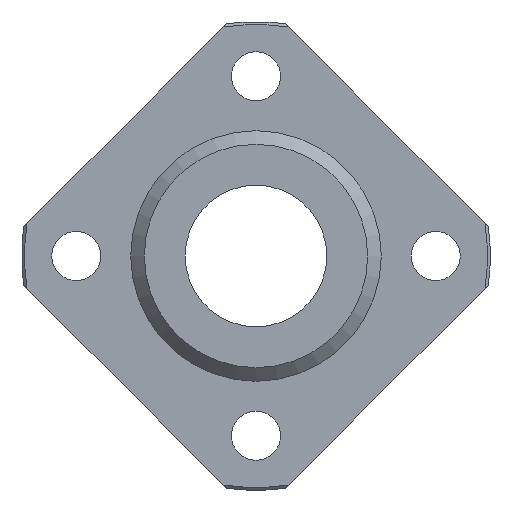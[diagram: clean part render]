
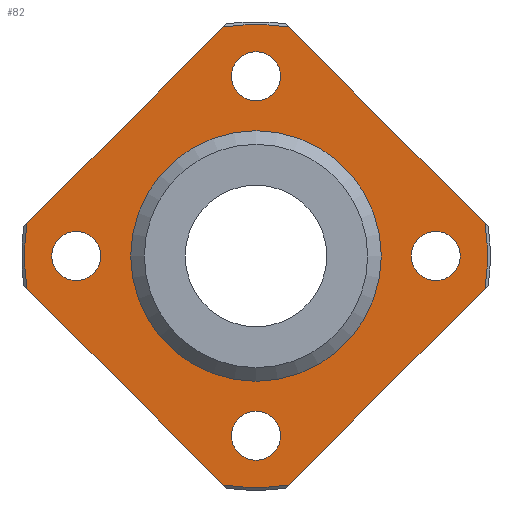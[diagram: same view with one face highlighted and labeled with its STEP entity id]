
A CAD part, left-side view. The second image highlights one B-rep face of the part: STEP entity #82.
In plain terms, the highlighted planar face has unit normal (-1, 0, 0).
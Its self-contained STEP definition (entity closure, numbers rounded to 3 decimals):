
#82=ADVANCED_FACE('',(#132,#133,#134,#135,#136,#137),#138,.F.);
#132=FACE_BOUND('',#226,.T.);
#133=FACE_BOUND('',#227,.T.);
#134=FACE_BOUND('',#228,.T.);
#135=FACE_BOUND('',#229,.T.);
#136=FACE_BOUND('',#230,.T.);
#137=FACE_OUTER_BOUND('',#231,.T.);
#138=PLANE('',#232);
#226=EDGE_LOOP('',(#358));
#227=EDGE_LOOP('',(#359));
#228=EDGE_LOOP('',(#360));
#229=EDGE_LOOP('',(#361));
#230=EDGE_LOOP('',(#362));
#231=EDGE_LOOP('',(#363,#364,#365,#366,#367,#368,#369,#370));
#232=AXIS2_PLACEMENT_3D('',#371,#372,#373);
#358=ORIENTED_EDGE('',*,*,#571,.T.);
#359=ORIENTED_EDGE('',*,*,#572,.T.);
#360=ORIENTED_EDGE('',*,*,#573,.T.);
#361=ORIENTED_EDGE('',*,*,#574,.T.);
#362=ORIENTED_EDGE('',*,*,#575,.T.);
#363=ORIENTED_EDGE('',*,*,#576,.F.);
#364=ORIENTED_EDGE('',*,*,#548,.F.);
#365=ORIENTED_EDGE('',*,*,#538,.F.);
#366=ORIENTED_EDGE('',*,*,#577,.F.);
#367=ORIENTED_EDGE('',*,*,#578,.F.);
#368=ORIENTED_EDGE('',*,*,#579,.F.);
#369=ORIENTED_EDGE('',*,*,#549,.F.);
#370=ORIENTED_EDGE('',*,*,#580,.F.);
#371=CARTESIAN_POINT('',(-9.0,11.5,0.0));
#372=DIRECTION('',(1.0,0.0,0.0));
#373=DIRECTION('',(0.0,0.0,-1.0));
#538=EDGE_CURVE('',#607,#608,#609,.T.);
#548=EDGE_CURVE('',#608,#624,#627,.T.);
#549=EDGE_CURVE('',#628,#629,#630,.T.);
#571=EDGE_CURVE('',#670,#670,#671,.T.);
#572=EDGE_CURVE('',#672,#672,#673,.T.);
#573=EDGE_CURVE('',#674,#674,#675,.T.);
#574=EDGE_CURVE('',#676,#676,#677,.T.);
#575=EDGE_CURVE('',#678,#678,#679,.T.);
#576=EDGE_CURVE('',#624,#680,#681,.T.);
#577=EDGE_CURVE('',#682,#607,#683,.T.);
#578=EDGE_CURVE('',#684,#682,#685,.T.);
#579=EDGE_CURVE('',#629,#684,#686,.T.);
#580=EDGE_CURVE('',#680,#628,#687,.T.);
#607=VERTEX_POINT('',#729);
#608=VERTEX_POINT('',#730);
#609=LINE('',#731,#732);
#624=VERTEX_POINT('',#762);
#627=CIRCLE('',#768,21.246);
#628=VERTEX_POINT('',#769);
#629=VERTEX_POINT('',#770);
#630=LINE('',#771,#772);
#670=VERTEX_POINT('',#829);
#671=CIRCLE('',#830,2.25);
#672=VERTEX_POINT('',#831);
#673=CIRCLE('',#832,2.25);
#674=VERTEX_POINT('',#833);
#675=CIRCLE('',#834,2.25);
#676=VERTEX_POINT('',#835);
#677=CIRCLE('',#836,2.25);
#678=VERTEX_POINT('',#837);
#679=CIRCLE('',#838,11.5);
#680=VERTEX_POINT('',#839);
#681=LINE('',#840,#841);
#682=VERTEX_POINT('',#842);
#683=CIRCLE('',#843,21.246);
#684=VERTEX_POINT('',#844);
#685=LINE('',#845,#846);
#686=CIRCLE('',#847,21.246);
#687=CIRCLE('',#848,21.246);
#729=CARTESIAN_POINT('',(-9.0,21.032,3.01));
#730=CARTESIAN_POINT('',(-9.0,3.01,21.032));
#731=CARTESIAN_POINT('',(-9.0,17.771,6.271));
#732=VECTOR('',#915,1.0);
#762=CARTESIAN_POINT('',(-9.0,-3.01,21.032));
#768=AXIS2_PLACEMENT_3D('',#922,#923,#924);
#769=CARTESIAN_POINT('',(-9.0,-21.032,-3.01));
#770=CARTESIAN_POINT('',(-9.0,-3.01,-21.032));
#771=CARTESIAN_POINT('',(-9.0,-6.271,-17.771));
#772=VECTOR('',#925,1.0);
#829=CARTESIAN_POINT('',(-9.0,-16.5,-2.25));
#830=AXIS2_PLACEMENT_3D('',#967,#968,#969);
#831=CARTESIAN_POINT('',(-9.0,16.5,-2.25));
#832=AXIS2_PLACEMENT_3D('',#970,#971,#972);
#833=CARTESIAN_POINT('',(-9.0,0.0,-18.75));
#834=AXIS2_PLACEMENT_3D('',#973,#974,#975);
#835=CARTESIAN_POINT('',(-9.0,0.0,14.25));
#836=AXIS2_PLACEMENT_3D('',#976,#977,#978);
#837=CARTESIAN_POINT('',(-9.0,0.0,-11.5));
#838=AXIS2_PLACEMENT_3D('',#979,#980,#981);
#839=CARTESIAN_POINT('',(-9.0,-21.032,3.01));
#840=CARTESIAN_POINT('',(-9.0,-6.271,17.771));
#841=VECTOR('',#982,1.0);
#842=CARTESIAN_POINT('',(-9.0,21.032,-3.01));
#843=AXIS2_PLACEMENT_3D('',#983,#984,#985);
#844=CARTESIAN_POINT('',(-9.0,3.01,-21.032));
#845=CARTESIAN_POINT('',(-9.0,17.771,-6.271));
#846=VECTOR('',#986,1.0);
#847=AXIS2_PLACEMENT_3D('',#987,#988,#989);
#848=AXIS2_PLACEMENT_3D('',#990,#991,#992);
#915=DIRECTION('',(0.0,-0.707,0.707));
#922=CARTESIAN_POINT('',(-9.0,0.0,0.0));
#923=DIRECTION('',(1.0,0.0,0.0));
#924=DIRECTION('',(0.0,0.0,-1.0));
#925=DIRECTION('',(0.0,0.707,-0.707));
#967=CARTESIAN_POINT('',(-9.0,-16.5,0.0));
#968=DIRECTION('',(1.0,0.0,0.0));
#969=DIRECTION('',(0.0,0.0,-1.0));
#970=CARTESIAN_POINT('',(-9.0,16.5,0.0));
#971=DIRECTION('',(1.0,0.0,0.0));
#972=DIRECTION('',(0.0,0.0,-1.0));
#973=CARTESIAN_POINT('',(-9.0,0.0,-16.5));
#974=DIRECTION('',(1.0,0.0,0.0));
#975=DIRECTION('',(0.0,0.0,-1.0));
#976=CARTESIAN_POINT('',(-9.0,0.0,16.5));
#977=DIRECTION('',(1.0,0.0,0.0));
#978=DIRECTION('',(0.0,0.0,-1.0));
#979=CARTESIAN_POINT('',(-9.0,0.0,0.0));
#980=DIRECTION('',(1.0,0.0,0.0));
#981=DIRECTION('',(0.0,0.0,-1.0));
#982=DIRECTION('',(0.0,-0.707,-0.707));
#983=CARTESIAN_POINT('',(-9.0,0.0,0.0));
#984=DIRECTION('',(1.0,0.0,0.0));
#985=DIRECTION('',(0.0,0.0,-1.0));
#986=DIRECTION('',(0.0,0.707,0.707));
#987=CARTESIAN_POINT('',(-9.0,0.0,0.0));
#988=DIRECTION('',(1.0,0.0,0.0));
#989=DIRECTION('',(0.0,0.0,-1.0));
#990=CARTESIAN_POINT('',(-9.0,0.0,0.0));
#991=DIRECTION('',(1.0,0.0,0.0));
#992=DIRECTION('',(0.0,0.0,-1.0));
